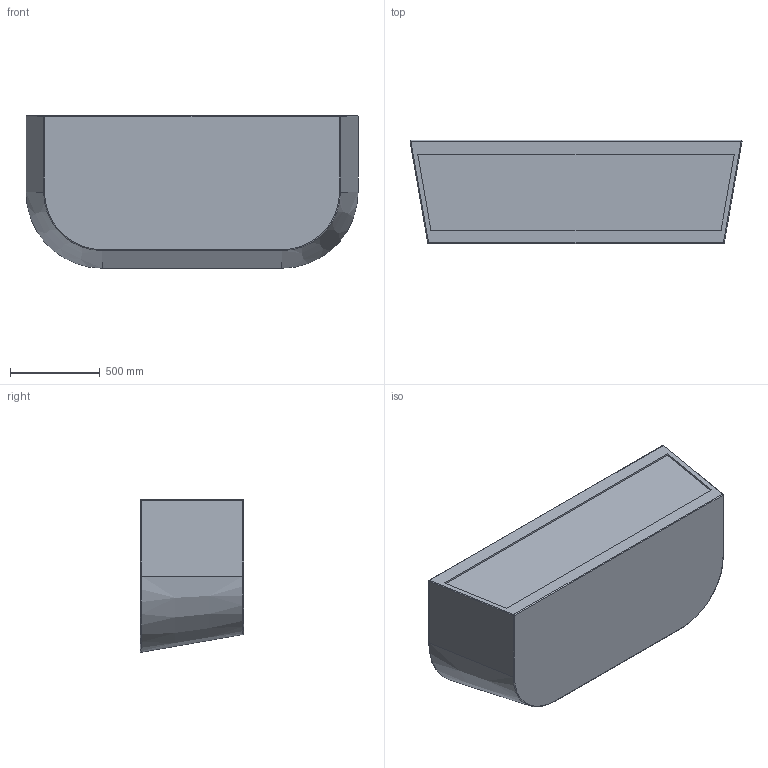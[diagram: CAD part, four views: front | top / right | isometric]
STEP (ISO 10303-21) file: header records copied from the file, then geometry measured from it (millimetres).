
FILE_DESCRIPTION((' '),'2;1');
FILE_NAME( '18514743a66f58c3.stp', '2022-12-15T07:23:59', (' '), ('--- Datakit www.datakit.com---'), ' Datakit CrossCadWare V2022.3 Jun 15 2022', 'DATAKIT 2022 (c)', ' ');
FILE_SCHEMA(('CONFIG_CONTROL_DESIGN'));
Length unit declared in the file: millimetre
Products named in the file (1): 185147429e38b9c3
Bounding box: 1848.11 x 575 x 849.06 mm (x, y, z)
Volume: 440773629.8 mm3; surface area: 6575910.5 mm2
Topology: 3 solids, 3 shells, 68 faces, 150 edges, 84 vertices
Faces by surface type: plane 18, offset 13, cylinder 13, torus 12, cone 4, bspline 4, sphere 4
Full cylindrical faces by diameter (mm): 35 x1, 52 x1, 80 x1
Entity records: 22442 total; most frequent: CARTESIAN_POINT 21149, ORIENTED_EDGE 252, DIRECTION 236, EDGE_CURVE 126, AXIS2_PLACEMENT_3D 100, EDGE_LOOP 84, VERTEX_POINT 81, ADVANCED_FACE 68
